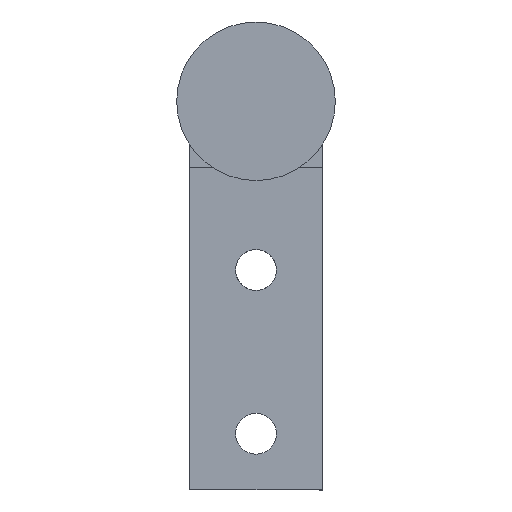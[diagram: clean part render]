
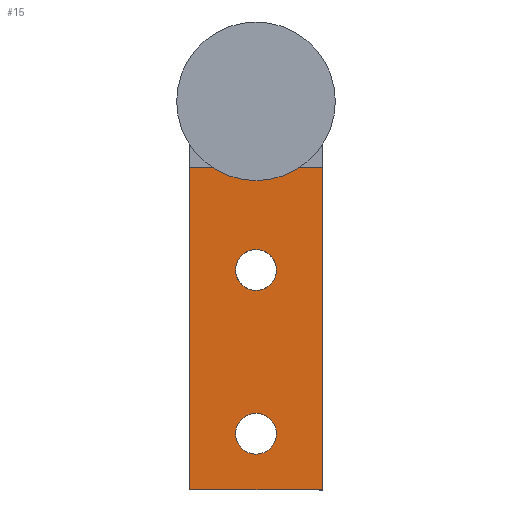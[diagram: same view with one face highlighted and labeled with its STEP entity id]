
A CAD part, front view. The second image highlights one B-rep face of the part: STEP entity #15.
In plain terms, the highlighted planar face has unit normal (0, -1, 0).
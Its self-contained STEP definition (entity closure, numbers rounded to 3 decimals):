
#15 = ADVANCED_FACE ( 'NONE', ( #674, #673, #668 ), #453, .T. ) ;
#47 = VERTEX_POINT ( 'NONE', #475 ) ;
#49 = VERTEX_POINT ( 'NONE', #322 ) ;
#50 = VERTEX_POINT ( 'NONE', #327 ) ;
#51 = VERTEX_POINT ( 'NONE', #539 ) ;
#70 = VERTEX_POINT ( 'NONE', #512 ) ;
#73 = VERTEX_POINT ( 'NONE', #509 ) ;
#74 = VERTEX_POINT ( 'NONE', #507 ) ;
#76 = VERTEX_POINT ( 'NONE', #504 ) ;
#98 = EDGE_CURVE ( 'NONE', #76, #74, #641, .T. ) ;
#104 = AXIS2_PLACEMENT_3D ( 'NONE', #381, #380, #378 ) ;
#109 = EDGE_CURVE ( 'NONE', #50, #47, #636, .T. ) ;
#120 = EDGE_CURVE ( 'NONE', #73, #70, #627, .T. ) ;
#128 = EDGE_CURVE ( 'NONE', #51, #49, #625, .T. ) ;
#143 = EDGE_CURVE ( 'NONE', #74, #76, #606, .T. ) ;
#150 = AXIS2_PLACEMENT_3D ( 'NONE', #405, #394, #393 ) ;
#153 = EDGE_CURVE ( 'NONE', #49, #47, #609, .T. ) ;
#156 = EDGE_CURVE ( 'NONE', #70, #73, #597, .T. ) ;
#161 = EDGE_CURVE ( 'NONE', #51, #50, #598, .T. ) ;
#168 = AXIS2_PLACEMENT_3D ( 'NONE', #445, #443, #441 ) ;
#184 = AXIS2_PLACEMENT_3D ( 'NONE', #482, #476, #474 ) ;
#199 = AXIS2_PLACEMENT_3D ( 'NONE', #452, #448, #444 ) ;
#236 = ORIENTED_EDGE ( 'NONE', *, *, #128, .T. ) ;
#237 = ORIENTED_EDGE ( 'NONE', *, *, #161, .F. ) ;
#238 = ORIENTED_EDGE ( 'NONE', *, *, #109, .F. ) ;
#239 = ORIENTED_EDGE ( 'NONE', *, *, #153, .T. ) ;
#240 = ORIENTED_EDGE ( 'NONE', *, *, #98, .F. ) ;
#241 = ORIENTED_EDGE ( 'NONE', *, *, #143, .F. ) ;
#242 = ORIENTED_EDGE ( 'NONE', *, *, #156, .F. ) ;
#243 = ORIENTED_EDGE ( 'NONE', *, *, #120, .F. ) ;
#254 = EDGE_LOOP ( 'NONE', ( #243, #242 ) ) ;
#265 = EDGE_LOOP ( 'NONE', ( #241, #240 ) ) ;
#266 = EDGE_LOOP ( 'NONE', ( #239, #238, #237, #236 ) ) ;
#322 = CARTESIAN_POINT ( 'NONE',  ( 6.5, 264.8, -6.5 ) ) ;
#327 = CARTESIAN_POINT ( 'NONE',  ( -6.5, 264.8, -38. ) ) ;
#376 = DIRECTION ( 'NONE',  ( -1., 0., 0. ) ) ;
#378 = DIRECTION ( 'NONE',  ( -1., 0., 0. ) ) ;
#380 = DIRECTION ( 'NONE',  ( 0., -1., 0. ) ) ;
#381 = CARTESIAN_POINT ( 'NONE',  ( 0., 264.8, -16.5 ) ) ;
#384 = CARTESIAN_POINT ( 'NONE',  ( 6.5, 264.8, -38. ) ) ;
#385 = DIRECTION ( 'NONE',  ( -1., 0., 0. ) ) ;
#387 = CARTESIAN_POINT ( 'NONE',  ( 6.5, 264.8, -6.5 ) ) ;
#393 = DIRECTION ( 'NONE',  ( -1., 0., 0. ) ) ;
#394 = DIRECTION ( 'NONE',  ( 0., -1., 0. ) ) ;
#405 = CARTESIAN_POINT ( 'NONE',  ( 0., 264.8, -32.5 ) ) ;
#418 = DIRECTION ( 'NONE',  ( 0., 0., 1. ) ) ;
#419 = CARTESIAN_POINT ( 'NONE',  ( 6.5, 264.8, -38. ) ) ;
#441 = DIRECTION ( 'NONE',  ( -1., 0., 0. ) ) ;
#443 = DIRECTION ( 'NONE',  ( 0., -1., 0. ) ) ;
#444 = DIRECTION ( 'NONE',  ( -1., 0., 0. ) ) ;
#445 = CARTESIAN_POINT ( 'NONE',  ( 0., 264.8, -16.5 ) ) ;
#448 = DIRECTION ( 'NONE',  ( 0., -1., 0. ) ) ;
#452 = CARTESIAN_POINT ( 'NONE',  ( 6.5, 264.8, -38. ) ) ;
#453 = PLANE ( 'NONE',  #199 ) ;
#457 = DIRECTION ( 'NONE',  ( 0., 0., 1. ) ) ;
#465 = CARTESIAN_POINT ( 'NONE',  ( -6.5, 264.8, -38. ) ) ;
#474 = DIRECTION ( 'NONE',  ( -1., 0., 0. ) ) ;
#475 = CARTESIAN_POINT ( 'NONE',  ( -6.5, 264.8, -6.5 ) ) ;
#476 = DIRECTION ( 'NONE',  ( 0., -1., 0. ) ) ;
#482 = CARTESIAN_POINT ( 'NONE',  ( 0., 264.8, -32.5 ) ) ;
#504 = CARTESIAN_POINT ( 'NONE',  ( 2., 264.8, -32.5 ) ) ;
#507 = CARTESIAN_POINT ( 'NONE',  ( -2., 264.8, -32.5 ) ) ;
#509 = CARTESIAN_POINT ( 'NONE',  ( -2., 264.8, -16.5 ) ) ;
#512 = CARTESIAN_POINT ( 'NONE',  ( 2., 264.8, -16.5 ) ) ;
#539 = CARTESIAN_POINT ( 'NONE',  ( 6.5, 264.8, -38. ) ) ;
#597 = CIRCLE ( 'NONE', #104, 2. ) ;
#598 = LINE ( 'NONE', #384, #605 ) ;
#605 = VECTOR ( 'NONE', #376, 1000. ) ;
#606 = CIRCLE ( 'NONE', #150, 2. ) ;
#609 = LINE ( 'NONE', #387, #611 ) ;
#611 = VECTOR ( 'NONE', #385, 1000. ) ;
#623 = VECTOR ( 'NONE', #418, 1000. ) ;
#625 = LINE ( 'NONE', #419, #623 ) ;
#627 = CIRCLE ( 'NONE', #168, 2. ) ;
#636 = LINE ( 'NONE', #465, #643 ) ;
#641 = CIRCLE ( 'NONE', #184, 2. ) ;
#643 = VECTOR ( 'NONE', #457, 1000. ) ;
#668 = FACE_OUTER_BOUND ( 'NONE', #266, .T. ) ;
#673 = FACE_BOUND ( 'NONE', #265, .T. ) ;
#674 = FACE_BOUND ( 'NONE', #254, .T. ) ;
